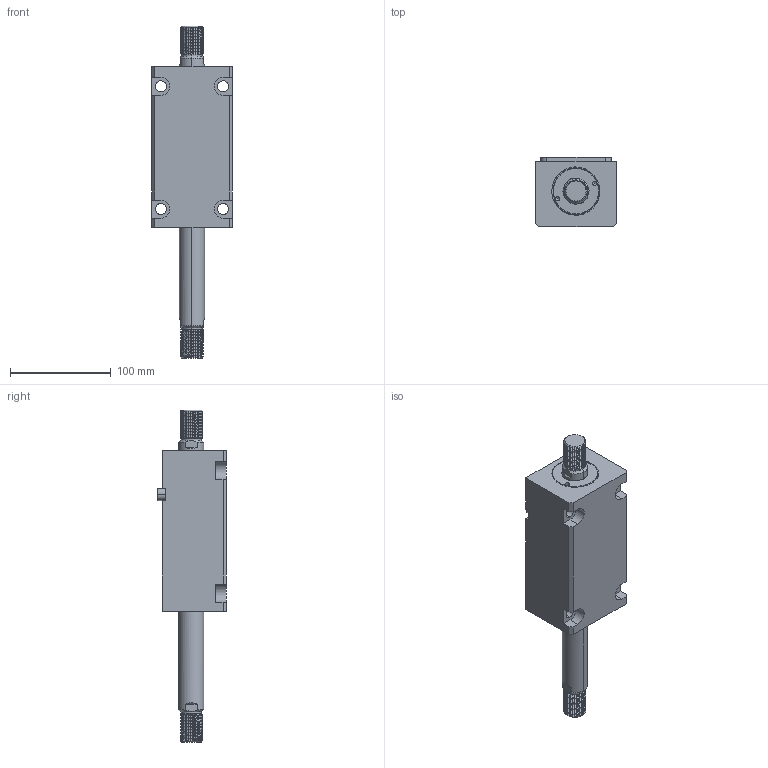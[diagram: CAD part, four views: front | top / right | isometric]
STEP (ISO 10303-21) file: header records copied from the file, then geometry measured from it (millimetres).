
FILE_DESCRIPTION (( 'STEP AP214' ), '1' );
FILE_NAME ('chtb-lwm40x90w_asm.STEP', '2018-05-31T00:51:00', ( 'Windows' ), ( 'Microsoft' ), 'SwSTEP 2.0', 'SolidWorks 2015', '' );
FILE_SCHEMA (( 'AUTOMOTIVE_DESIGN' ));
Length unit declared in the file: millimetre
Products named in the file (5): CHTB-SW40X90NHSG; CHTB-SD40QG; CHTB-LA40PJ; CHTB-LWM40X90NBT; chtb-lwm40x90w_asm
Assembly tree (4 placements, depth 2):
  chtb-lwm40x90w_asm
    CHTB-LWM40X90NBT
    CHTB-LA40PJ
    CHTB-SD40QG
    CHTB-SW40X90NHSG
Bounding box: 80 x 68.5 x 330 mm (x, y, z)
Volume: 791182.9 mm3; surface area: 127546.9 mm2
Topology: 4 solids, 4 shells, 252 faces, 699 edges, 465 vertices
Faces by surface type: cylinder 152, plane 57, bspline 18, cone 13, torus 12
Entity records: 17373 total; most frequent: CARTESIAN_POINT 11260, ORIENTED_EDGE 1386, DIRECTION 1092, EDGE_CURVE 693, VERTEX_POINT 465, AXIS2_PLACEMENT_3D 419, EDGE_LOOP 284, LINE 254
